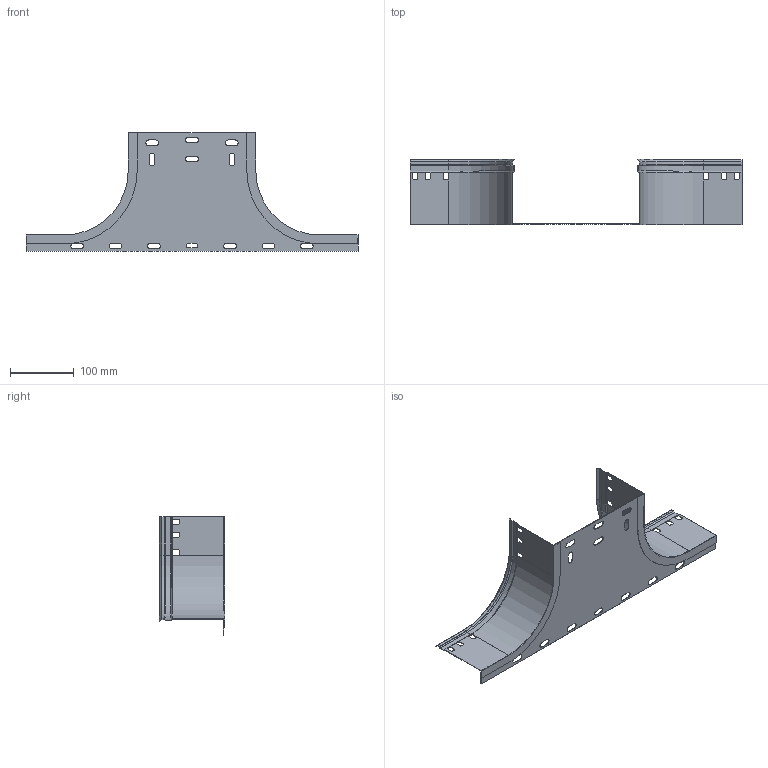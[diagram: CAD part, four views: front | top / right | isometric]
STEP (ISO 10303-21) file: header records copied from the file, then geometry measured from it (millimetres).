
FILE_DESCRIPTION (( 'STEP AP203' ), '1' );
FILE_NAME ('ERE_AS 200x100.step', '2023-07-27T18:50:36', ( '' ), ( '' ), 'SwSTEP 2.0', 'SolidWorks 2022', '' );
FILE_SCHEMA (( 'CONFIG_CONTROL_DESIGN' ));
Length unit declared in the file: millimetre
Products named in the file (3): ERE_AS 200x100; ERE_LATERAL AS_100; ERE_BASE AS_200
Assembly tree (3 placements, depth 2):
  ERE_AS 200x100
    ERE_BASE AS_200
    ERE_LATERAL AS_100  x2
Bounding box: 520 x 102 x 185.5 mm (x, y, z)
Volume: 102195.1 mm3; surface area: 226777.6 mm2
Topology: 3 solids, 3 shells, 218 faces, 624 edges, 388 vertices
Faces by surface type: plane 136, cylinder 68, cone 14
Entity records: 5023 total; most frequent: CARTESIAN_POINT 826, ORIENTED_EDGE 816, DIRECTION 814, EDGE_CURVE 408, VECTOR 290, LINE 290, AXIS2_PLACEMENT_3D 262, VERTEX_POINT 258
